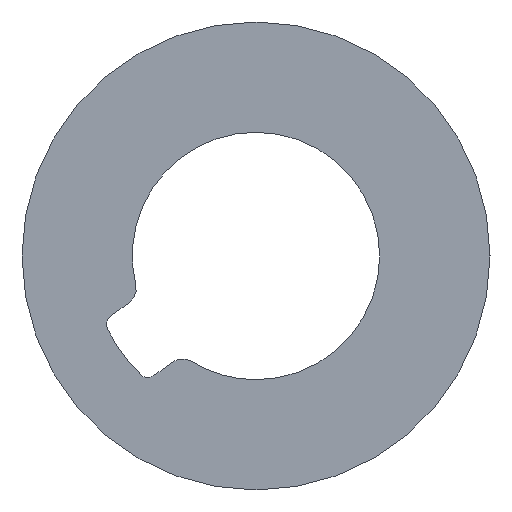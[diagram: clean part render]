
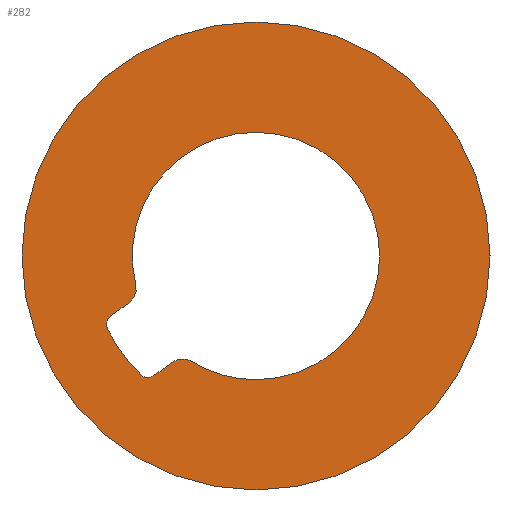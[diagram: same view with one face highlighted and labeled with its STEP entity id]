
A CAD part, left-side view. The second image highlights one B-rep face of the part: STEP entity #282.
In plain terms, the highlighted planar face has unit normal (-1, 0, 0).
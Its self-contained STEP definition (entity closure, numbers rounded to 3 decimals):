
#24 = AXIS2_PLACEMENT_3D ( 'NONE', #403, #402, #400 ) ;
#27 = AXIS2_PLACEMENT_3D ( 'NONE', #420, #419, #418 ) ;
#34 = AXIS2_PLACEMENT_3D ( 'NONE', #454, #453, #452 ) ;
#36 = AXIS2_PLACEMENT_3D ( 'NONE', #468, #467, #466 ) ;
#38 = AXIS2_PLACEMENT_3D ( 'NONE', #479, #478, #477 ) ;
#40 = AXIS2_PLACEMENT_3D ( 'NONE', #493, #492, #491 ) ;
#42 = AXIS2_PLACEMENT_3D ( 'NONE', #522, #521, #520 ) ;
#43 = AXIS2_PLACEMENT_3D ( 'NONE', #354, #525, #524 ) ;
#44 = AXIS2_PLACEMENT_3D ( 'NONE', #366, #363, #359 ) ;
#45 = AXIS2_PLACEMENT_3D ( 'NONE', #387, #383, #379 ) ;
#47 = AXIS2_PLACEMENT_3D ( 'NONE', #421, #417, #414 ) ;
#48 = AXIS2_PLACEMENT_3D ( 'NONE', #432, #429, #425 ) ;
#49 = EDGE_CURVE ( 'NONE', #465, #480, #230, .T. ) ;
#50 = EDGE_CURVE ( 'NONE', #516, #523, #228, .T. ) ;
#53 = EDGE_CURVE ( 'NONE', #519, #469, #222, .T. ) ;
#54 = EDGE_CURVE ( 'NONE', #469, #504, #223, .T. ) ;
#55 = EDGE_CURVE ( 'NONE', #504, #516, #218, .T. ) ;
#56 = EDGE_CURVE ( 'NONE', #523, #476, #216, .T. ) ;
#57 = EDGE_CURVE ( 'NONE', #476, #462, #214, .T. ) ;
#66 = EDGE_CURVE ( 'NONE', #447, #444, #196, .T. ) ;
#70 = EDGE_CURVE ( 'NONE', #507, #510, #188, .T. ) ;
#73 = EDGE_CURVE ( 'NONE', #480, #507, #182, .T. ) ;
#77 = EDGE_CURVE ( 'NONE', #510, #519, #174, .T. ) ;
#86 = EDGE_CURVE ( 'NONE', #444, #447, #156, .T. ) ;
#87 = EDGE_CURVE ( 'NONE', #462, #465, #157, .T. ) ;
#93 = ORIENTED_EDGE ( 'NONE', *, *, #87, .T. ) ;
#94 = ORIENTED_EDGE ( 'NONE', *, *, #66, .F. ) ;
#95 = ORIENTED_EDGE ( 'NONE', *, *, #86, .F. ) ;
#96 = ORIENTED_EDGE ( 'NONE', *, *, #49, .T. ) ;
#97 = ORIENTED_EDGE ( 'NONE', *, *, #70, .T. ) ;
#98 = ORIENTED_EDGE ( 'NONE', *, *, #73, .T. ) ;
#104 = ORIENTED_EDGE ( 'NONE', *, *, #54, .T. ) ;
#105 = ORIENTED_EDGE ( 'NONE', *, *, #53, .T. ) ;
#106 = ORIENTED_EDGE ( 'NONE', *, *, #77, .T. ) ;
#107 = ORIENTED_EDGE ( 'NONE', *, *, #56, .T. ) ;
#108 = ORIENTED_EDGE ( 'NONE', *, *, #50, .T. ) ;
#109 = ORIENTED_EDGE ( 'NONE', *, *, #55, .T. ) ;
#110 = ORIENTED_EDGE ( 'NONE', *, *, #57, .T. ) ;
#149 = FACE_BOUND ( 'NONE', #235, .T. ) ;
#150 = FACE_OUTER_BOUND ( 'NONE', #236, .T. ) ;
#155 = VECTOR ( 'NONE', #415, 1000. ) ;
#156 = CIRCLE ( 'NONE', #27, 7. ) ;
#157 = LINE ( 'NONE', #416, #155 ) ;
#174 = CIRCLE ( 'NONE', #34, 3.7 ) ;
#182 = CIRCLE ( 'NONE', #36, 3.7 ) ;
#188 = CIRCLE ( 'NONE', #38, 3.7 ) ;
#196 = CIRCLE ( 'NONE', #40, 7. ) ;
#214 = CIRCLE ( 'NONE', #42, 0.3 ) ;
#216 = CIRCLE ( 'NONE', #43, 4.95 ) ;
#218 = CIRCLE ( 'NONE', #44, 0.3 ) ;
#221 = VECTOR ( 'NONE', #370, 1000. ) ;
#222 = CIRCLE ( 'NONE', #45, 0.5 ) ;
#223 = LINE ( 'NONE', #374, #221 ) ;
#228 = CIRCLE ( 'NONE', #47, 0.3 ) ;
#230 = CIRCLE ( 'NONE', #48, 0.5 ) ;
#235 = EDGE_LOOP ( 'NONE', ( #93, #96, #98, #97, #106, #105, #104, #109, #108, #107, #110 ) ) ;
#236 = EDGE_LOOP ( 'NONE', ( #95, #94 ) ) ;
#282 = ADVANCED_FACE ( 'NONE', ( #150, #149 ), #404, .F. ) ;
#317 = CARTESIAN_POINT ( 'NONE',  ( -489.5, 3.444, -3.555 ) ) ;
#318 = CARTESIAN_POINT ( 'NONE',  ( -489.5, 1.939, -3.151 ) ) ;
#319 = CARTESIAN_POINT ( 'NONE',  ( -489.5, 3.236, -3.64 ) ) ;
#321 = CARTESIAN_POINT ( 'NONE',  ( -489.5, 0., -3.7 ) ) ;
#322 = CARTESIAN_POINT ( 'NONE',  ( -489.5, 0., 3.7 ) ) ;
#323 = CARTESIAN_POINT ( 'NONE',  ( -489.5, 3.059, -3.582 ) ) ;
#330 = CARTESIAN_POINT ( 'NONE',  ( -489.5, 3.596, -0.87 ) ) ;
#331 = CARTESIAN_POINT ( 'NONE',  ( -489.5, 4.445, -2.177 ) ) ;
#333 = CARTESIAN_POINT ( 'NONE',  ( -489.5, 2.495, -3.172 ) ) ;
#334 = CARTESIAN_POINT ( 'NONE',  ( -489.5, 3.788, -1.393 ) ) ;
#335 = CARTESIAN_POINT ( 'NONE',  ( -489.5, 4.352, -1.803 ) ) ;
#339 = CARTESIAN_POINT ( 'NONE',  ( -489.5, 0., -7. ) ) ;
#340 = CARTESIAN_POINT ( 'NONE',  ( -489.5, 0., 7. ) ) ;
#354 = CARTESIAN_POINT ( 'NONE',  ( -489.5, 0., 0. ) ) ;
#359 = DIRECTION ( 'NONE',  ( 0., 0., 1. ) ) ;
#363 = DIRECTION ( 'NONE',  ( 1., 0., 0. ) ) ;
#366 = CARTESIAN_POINT ( 'NONE',  ( -489.5, 3.236, -3.34 ) ) ;
#370 = DIRECTION ( 'NONE',  ( 0., 0.809, -0.588 ) ) ;
#374 = CARTESIAN_POINT ( 'NONE',  ( -489.5, 3.059, -3.582 ) ) ;
#379 = DIRECTION ( 'NONE',  ( 0., 0., -1. ) ) ;
#383 = DIRECTION ( 'NONE',  ( -1., 0., 0. ) ) ;
#387 = CARTESIAN_POINT ( 'NONE',  ( -489.5, 2.201, -3.577 ) ) ;
#400 = DIRECTION ( 'NONE',  ( 0., 0., -1. ) ) ;
#402 = DIRECTION ( 'NONE',  ( 1., 0., 0. ) ) ;
#403 = CARTESIAN_POINT ( 'NONE',  ( -489.5, 0., 0. ) ) ;
#404 = PLANE ( 'NONE',  #24 ) ;
#414 = DIRECTION ( 'NONE',  ( 0., 0., 1. ) ) ;
#415 = DIRECTION ( 'NONE',  ( 0., -0.809, 0.588 ) ) ;
#416 = CARTESIAN_POINT ( 'NONE',  ( -489.5, 3.788, -1.393 ) ) ;
#417 = DIRECTION ( 'NONE',  ( 1., 0., 0. ) ) ;
#418 = DIRECTION ( 'NONE',  ( 0., 0., -1. ) ) ;
#419 = DIRECTION ( 'NONE',  ( 1., 0., 0. ) ) ;
#420 = CARTESIAN_POINT ( 'NONE',  ( -489.5, 0., 0. ) ) ;
#421 = CARTESIAN_POINT ( 'NONE',  ( -489.5, 3.236, -3.34 ) ) ;
#425 = DIRECTION ( 'NONE',  ( 0., 0., 1. ) ) ;
#429 = DIRECTION ( 'NONE',  ( -1., 0., 0. ) ) ;
#432 = CARTESIAN_POINT ( 'NONE',  ( -489.5, 4.082, -0.988 ) ) ;
#444 = VERTEX_POINT ( 'NONE', #340 ) ;
#447 = VERTEX_POINT ( 'NONE', #339 ) ;
#452 = DIRECTION ( 'NONE',  ( 0., 0., -1. ) ) ;
#453 = DIRECTION ( 'NONE',  ( 1., 0., 0. ) ) ;
#454 = CARTESIAN_POINT ( 'NONE',  ( -489.5, 0., 0. ) ) ;
#462 = VERTEX_POINT ( 'NONE', #335 ) ;
#465 = VERTEX_POINT ( 'NONE', #334 ) ;
#466 = DIRECTION ( 'NONE',  ( 0., 0., -1. ) ) ;
#467 = DIRECTION ( 'NONE',  ( 1., 0., 0. ) ) ;
#468 = CARTESIAN_POINT ( 'NONE',  ( -489.5, 0., 0. ) ) ;
#469 = VERTEX_POINT ( 'NONE', #333 ) ;
#476 = VERTEX_POINT ( 'NONE', #331 ) ;
#477 = DIRECTION ( 'NONE',  ( 0., 0., -1. ) ) ;
#478 = DIRECTION ( 'NONE',  ( 1., 0., 0. ) ) ;
#479 = CARTESIAN_POINT ( 'NONE',  ( -489.5, 0., 0. ) ) ;
#480 = VERTEX_POINT ( 'NONE', #330 ) ;
#491 = DIRECTION ( 'NONE',  ( 0., 0., -1. ) ) ;
#492 = DIRECTION ( 'NONE',  ( 1., 0., 0. ) ) ;
#493 = CARTESIAN_POINT ( 'NONE',  ( -489.5, 0., 0. ) ) ;
#504 = VERTEX_POINT ( 'NONE', #323 ) ;
#507 = VERTEX_POINT ( 'NONE', #322 ) ;
#510 = VERTEX_POINT ( 'NONE', #321 ) ;
#516 = VERTEX_POINT ( 'NONE', #319 ) ;
#519 = VERTEX_POINT ( 'NONE', #318 ) ;
#520 = DIRECTION ( 'NONE',  ( 0., 0., -1. ) ) ;
#521 = DIRECTION ( 'NONE',  ( 1., 0., 0. ) ) ;
#522 = CARTESIAN_POINT ( 'NONE',  ( -489.5, 4.176, -2.045 ) ) ;
#523 = VERTEX_POINT ( 'NONE', #317 ) ;
#524 = DIRECTION ( 'NONE',  ( 0., 0., 1. ) ) ;
#525 = DIRECTION ( 'NONE',  ( 1., 0., 0. ) ) ;
